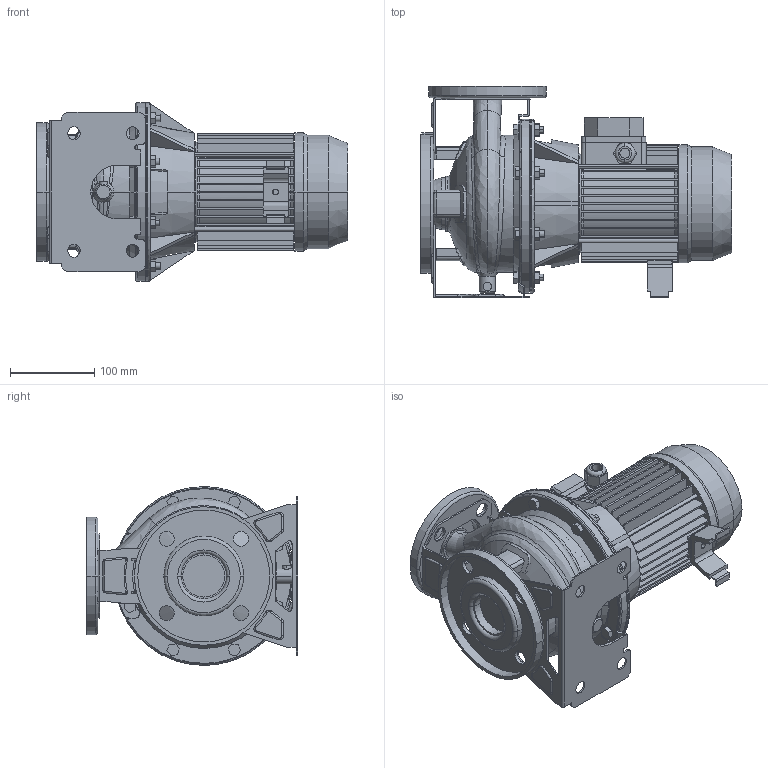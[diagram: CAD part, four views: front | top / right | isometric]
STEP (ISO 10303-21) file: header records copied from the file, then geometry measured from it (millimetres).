
FILE_DESCRIPTION((''),'2;1');
FILE_NAME('3M4_32-125_0_25_ASM','2016-09-16T',('rosa'),('"Ebara Pumps Europe +39.444.706811"'),'PRO/ENGINEER BY PARAMETRIC TECHNOLOGY CORPORATION, 2012130','PRO/ENGINEER BY PARAMETRIC TECHNOLOGY CORPORATION, 2012130','');
FILE_SCHEMA(('AUTOMOTIVE_DESIGN { 1 0 10303 214 1 1 1 1 }'));
Length unit declared in the file: millimetre
Products named in the file (12): CORPO_32-125_AF0; ASP_32-125; FLANGIA_DIN_50; MAND_32-125; FLANGIA_DIN_32; BASE_3M_32-125; CORPO_SALDATO_32-125_ASM; SUPPORTO_3M_160_71; MEC_71; SOSTEGNO_72005; 72015; 3M4_32-125_0_25_ASM
Assembly tree (11 placements, depth 3):
  3M4_32-125_0_25_ASM
    CORPO_SALDATO_32-125_ASM
      CORPO_32-125_AF0
      ASP_32-125
      FLANGIA_DIN_50
      MAND_32-125
      FLANGIA_DIN_32
      BASE_3M_32-125
    SUPPORTO_3M_160_71
    MEC_71
    SOSTEGNO_72005
    72015
Bounding box: 371 x 252 x 212.96 mm (x, y, z)
Volume: 4947597.8 mm3; surface area: 757615.5 mm2
Topology: 13 solids, 13 shells, 1088 faces, 2753 edges, 1745 vertices
Faces by surface type: plane 556, cylinder 320, cone 92, torus 68, bspline 46, sphere 6
Entity records: 47133 total; most frequent: CARTESIAN_POINT 10253, DIRECTION 5648, ORIENTED_EDGE 5490, EDGE_CURVE 2745, PRESENTATION_STYLE_ASSIGNMENT 2729, STYLED_ITEM 2673, CURVE_STYLE 2661, AXIS2_PLACEMENT_3D 2079
